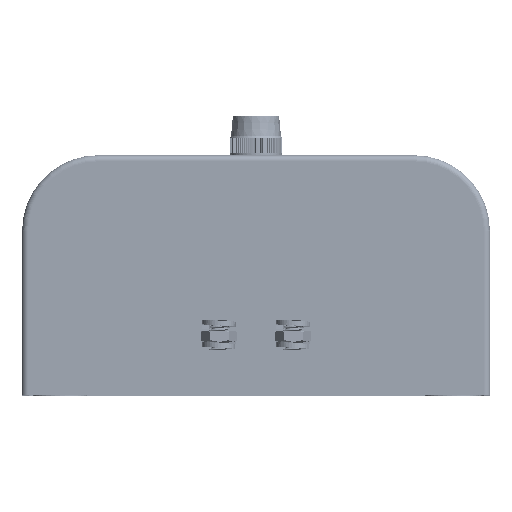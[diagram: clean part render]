
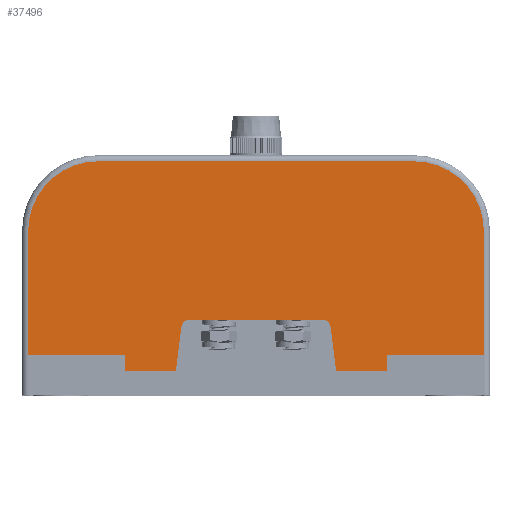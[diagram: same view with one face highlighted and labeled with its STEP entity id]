
A CAD part, top view. The second image highlights one B-rep face of the part: STEP entity #37496.
In plain terms, the highlighted planar face has unit normal (0, 0, 1) as drawn and (0, -1, 0) by its records, which use the part's own axes.
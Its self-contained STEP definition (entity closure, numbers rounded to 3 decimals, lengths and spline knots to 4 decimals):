
#2712=CIRCLE('',#40385,0.075);
#2713=CIRCLE('',#40386,0.075);
#2714=CIRCLE('',#40387,0.69);
#2715=CIRCLE('',#40388,0.69);
#4720=FACE_OUTER_BOUND('',#6985,.T.);
#6985=EDGE_LOOP('',(#30122,#30123,#30124,#30125,#30126,#30127,#30128,#30129,
#30130,#30131,#30132,#30133,#30134,#30135,#30136,#30137));
#10199=LINE('',#64473,#13597);
#10213=LINE('',#64509,#13611);
#10217=LINE('',#64518,#13615);
#10220=LINE('',#64524,#13618);
#10221=LINE('',#64528,#13619);
#10222=LINE('',#64532,#13620);
#10223=LINE('',#64534,#13621);
#10224=LINE('',#64535,#13622);
#10225=LINE('',#64537,#13623);
#10226=LINE('',#64541,#13624);
#10227=LINE('',#64544,#13625);
#10228=LINE('',#64545,#13626);
#13597=VECTOR('',#47463,0.3937);
#13611=VECTOR('',#47499,0.3937);
#13615=VECTOR('',#47505,0.3937);
#13618=VECTOR('',#47510,0.3937);
#13619=VECTOR('',#47513,0.3937);
#13620=VECTOR('',#47516,0.3937);
#13621=VECTOR('',#47517,0.3937);
#13622=VECTOR('',#47518,0.3937);
#13623=VECTOR('',#47519,0.3937);
#13624=VECTOR('',#47522,0.3937);
#13625=VECTOR('',#47525,0.3937);
#13626=VECTOR('',#47526,0.3937);
#16841=VERTEX_POINT('',#64470);
#16842=VERTEX_POINT('',#64472);
#16852=VERTEX_POINT('',#64506);
#16853=VERTEX_POINT('',#64508);
#16856=VERTEX_POINT('',#64515);
#16857=VERTEX_POINT('',#64517);
#16859=VERTEX_POINT('',#64523);
#16860=VERTEX_POINT('',#64525);
#16861=VERTEX_POINT('',#64527);
#16862=VERTEX_POINT('',#64529);
#16863=VERTEX_POINT('',#64531);
#16864=VERTEX_POINT('',#64533);
#16865=VERTEX_POINT('',#64536);
#16866=VERTEX_POINT('',#64538);
#16867=VERTEX_POINT('',#64540);
#16868=VERTEX_POINT('',#64542);
#21491=EDGE_CURVE('',#16842,#16841,#10199,.T.);
#21509=EDGE_CURVE('',#16853,#16852,#10213,.T.);
#21513=EDGE_CURVE('',#16857,#16856,#10217,.T.);
#21516=EDGE_CURVE('',#16856,#16859,#10220,.T.);
#21517=EDGE_CURVE('',#16859,#16860,#2712,.T.);
#21518=EDGE_CURVE('',#16860,#16861,#10221,.T.);
#21519=EDGE_CURVE('',#16861,#16862,#2713,.T.);
#21520=EDGE_CURVE('',#16862,#16863,#10222,.T.);
#21521=EDGE_CURVE('',#16864,#16863,#10223,.T.);
#21522=EDGE_CURVE('',#16853,#16864,#10224,.T.);
#21523=EDGE_CURVE('',#16852,#16865,#10225,.T.);
#21524=EDGE_CURVE('',#16866,#16865,#2714,.T.);
#21525=EDGE_CURVE('',#16867,#16866,#10226,.T.);
#21526=EDGE_CURVE('',#16868,#16867,#2715,.T.);
#21527=EDGE_CURVE('',#16842,#16868,#10227,.T.);
#21528=EDGE_CURVE('',#16841,#16857,#10228,.T.);
#30122=ORIENTED_EDGE('',*,*,#21516,.T.);
#30123=ORIENTED_EDGE('',*,*,#21517,.T.);
#30124=ORIENTED_EDGE('',*,*,#21518,.T.);
#30125=ORIENTED_EDGE('',*,*,#21519,.T.);
#30126=ORIENTED_EDGE('',*,*,#21520,.T.);
#30127=ORIENTED_EDGE('',*,*,#21521,.F.);
#30128=ORIENTED_EDGE('',*,*,#21522,.F.);
#30129=ORIENTED_EDGE('',*,*,#21509,.T.);
#30130=ORIENTED_EDGE('',*,*,#21523,.T.);
#30131=ORIENTED_EDGE('',*,*,#21524,.F.);
#30132=ORIENTED_EDGE('',*,*,#21525,.F.);
#30133=ORIENTED_EDGE('',*,*,#21526,.F.);
#30134=ORIENTED_EDGE('',*,*,#21527,.F.);
#30135=ORIENTED_EDGE('',*,*,#21491,.T.);
#30136=ORIENTED_EDGE('',*,*,#21528,.T.);
#30137=ORIENTED_EDGE('',*,*,#21513,.T.);
#35801=PLANE('',#40384);
#37496=ADVANCED_FACE('',(#4720),#35801,.T.);
#40384=AXIS2_PLACEMENT_3D('',#64522,#47508,#47509);
#40385=AXIS2_PLACEMENT_3D('',#64526,#47511,#47512);
#40386=AXIS2_PLACEMENT_3D('',#64530,#47514,#47515);
#40387=AXIS2_PLACEMENT_3D('',#64539,#47520,#47521);
#40388=AXIS2_PLACEMENT_3D('',#64543,#47523,#47524);
#47463=DIRECTION('',(1.,0.,0.));
#47499=DIRECTION('',(1.,0.,0.));
#47505=DIRECTION('',(1.,0.,0.));
#47508=DIRECTION('center_axis',(0.,-1.,0.));
#47509=DIRECTION('ref_axis',(1.,0.,0.));
#47510=DIRECTION('',(0.128,0.,0.992));
#47511=DIRECTION('center_axis',(0.,1.,0.));
#47512=DIRECTION('ref_axis',(0.,0.,1.));
#47513=DIRECTION('',(1.,0.,0.));
#47514=DIRECTION('center_axis',(0.,1.,0.));
#47515=DIRECTION('ref_axis',(0.992,0.,0.128));
#47516=DIRECTION('',(0.128,0.,-0.992));
#47517=DIRECTION('',(-1.,0.,0.));
#47518=DIRECTION('',(0.,0.,-1.));
#47519=DIRECTION('',(0.,0.,1.));
#47520=DIRECTION('center_axis',(0.,1.,0.));
#47521=DIRECTION('ref_axis',(0.551,0.,0.834));
#47522=DIRECTION('',(1.,0.,0.));
#47523=DIRECTION('center_axis',(0.,1.,0.));
#47524=DIRECTION('ref_axis',(-0.551,0.,0.834));
#47525=DIRECTION('',(0.,0.,1.));
#47526=DIRECTION('',(0.,0.,-1.));
#64470=CARTESIAN_POINT('',(-0.9906,-2.175,-0.422));
#64472=CARTESIAN_POINT('',(-1.9406,-2.175,-0.422));
#64473=CARTESIAN_POINT('',(-1.9406,-2.175,-0.422));
#64506=CARTESIAN_POINT('',(2.5494,-2.175,-0.422));
#64508=CARTESIAN_POINT('',(1.5994,-2.175,-0.422));
#64509=CARTESIAN_POINT('',(-1.9406,-2.175,-0.422));
#64515=CARTESIAN_POINT('',(-0.4862,-2.175,-0.582));
#64517=CARTESIAN_POINT('',(-0.9906,-2.175,-0.582));
#64518=CARTESIAN_POINT('',(-0.9906,-2.175,-0.582));
#64522=CARTESIAN_POINT('Origin',(-1.9406,-2.175,-0.422));
#64523=CARTESIAN_POINT('',(-0.4291,-2.175,-0.1374));
#64524=CARTESIAN_POINT('',(-0.4776,-2.175,-0.5153));
#64525=CARTESIAN_POINT('',(-0.3547,-2.175,-0.072));
#64526=CARTESIAN_POINT('Origin',(-0.3547,-2.175,-0.147));
#64527=CARTESIAN_POINT('',(0.9634,-2.175,-0.072));
#64528=CARTESIAN_POINT('',(-1.1477,-2.175,-0.072));
#64529=CARTESIAN_POINT('',(1.0378,-2.175,-0.1374));
#64530=CARTESIAN_POINT('Origin',(0.9634,-2.175,-0.147));
#64531=CARTESIAN_POINT('',(1.0949,-2.175,-0.582));
#64532=CARTESIAN_POINT('',(1.0498,-2.175,-0.2313));
#64533=CARTESIAN_POINT('',(1.5994,-2.175,-0.582));
#64534=CARTESIAN_POINT('',(1.5994,-2.175,-0.582));
#64535=CARTESIAN_POINT('',(1.5994,-2.175,-0.422));
#64536=CARTESIAN_POINT('',(2.5494,-2.175,0.798));
#64537=CARTESIAN_POINT('',(2.5494,-2.175,-0.422));
#64538=CARTESIAN_POINT('',(1.8594,-2.175,1.488));
#64539=CARTESIAN_POINT('Origin',(1.8594,-2.175,0.798));
#64540=CARTESIAN_POINT('',(-1.2506,-2.175,1.488));
#64541=CARTESIAN_POINT('',(-0.8181,-2.175,1.488));
#64542=CARTESIAN_POINT('',(-1.9406,-2.175,0.798));
#64543=CARTESIAN_POINT('Origin',(-1.2506,-2.175,0.798));
#64544=CARTESIAN_POINT('',(-1.9406,-2.175,-0.422));
#64545=CARTESIAN_POINT('',(-0.9906,-2.175,-0.422));
